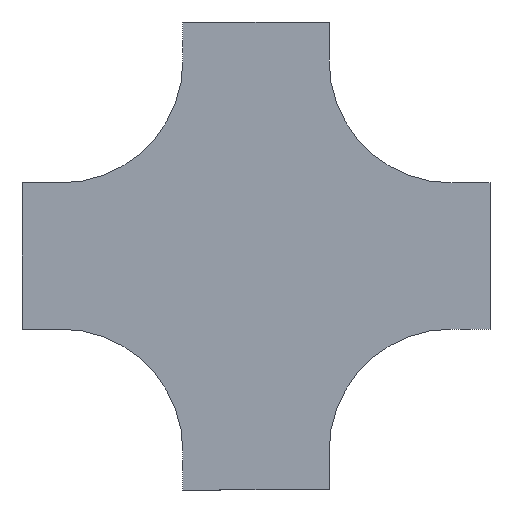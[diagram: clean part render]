
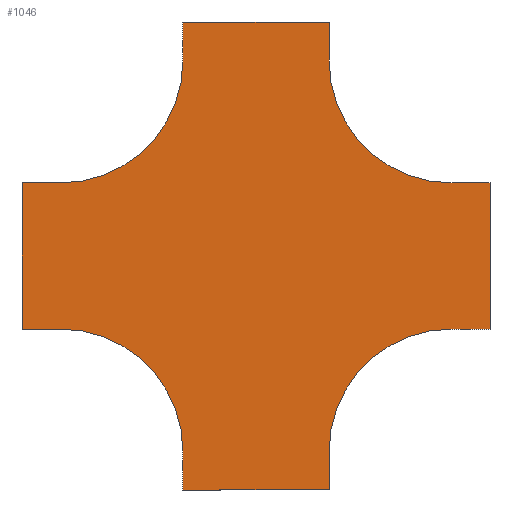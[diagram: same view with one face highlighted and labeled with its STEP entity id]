
A CAD part, front view. The second image highlights one B-rep face of the part: STEP entity #1046.
In plain terms, the highlighted planar face has unit normal (0, -1, 0).
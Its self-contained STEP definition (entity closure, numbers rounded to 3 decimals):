
#31 = CARTESIAN_POINT ( 'NONE',  ( 0., 0., 0. ) ) ;
#44 = CARTESIAN_POINT ( 'NONE',  ( 0., 0., -275. ) ) ;
#48 = EDGE_CURVE ( 'NONE', #2824, #3130, #220, .T. ) ;
#50 = CARTESIAN_POINT ( 'NONE',  ( -275., 0., 0. ) ) ;
#112 = CARTESIAN_POINT ( 'NONE',  ( -400., 0., -125. ) ) ;
#129 = ORIENTED_EDGE ( 'NONE', *, *, #48, .F. ) ;
#182 = EDGE_CURVE ( 'NONE', #3277, #3216, #1077, .T. ) ;
#188 = DIRECTION ( 'NONE',  ( 1., 0., 0. ) ) ;
#210 = DIRECTION ( 'NONE',  ( 0., 0., -1. ) ) ;
#215 = CIRCLE ( 'NONE', #2350, 125. ) ;
#220 = LINE ( 'NONE', #3004, #708 ) ;
#237 = EDGE_CURVE ( 'NONE', #1067, #1214, #1092, .T. ) ;
#253 = LINE ( 'NONE', #517, #910 ) ;
#267 = DIRECTION ( 'NONE',  ( 0., 0., -1. ) ) ;
#307 = EDGE_CURVE ( 'NONE', #995, #2249, #1920, .T. ) ;
#351 = EDGE_CURVE ( 'NONE', #2526, #2452, #2430, .T. ) ;
#364 = CARTESIAN_POINT ( 'NONE',  ( 40., 0., -125. ) ) ;
#383 = ORIENTED_EDGE ( 'NONE', *, *, #2798, .F. ) ;
#403 = CARTESIAN_POINT ( 'NONE',  ( 40., 0., -275. ) ) ;
#439 = LINE ( 'NONE', #1466, #3153 ) ;
#460 = DIRECTION ( 'NONE',  ( 0., -1., 0. ) ) ;
#493 = ORIENTED_EDGE ( 'NONE', *, *, #597, .F. ) ;
#517 = CARTESIAN_POINT ( 'NONE',  ( 40., 0., -125. ) ) ;
#539 = DIRECTION ( 'NONE',  ( -1., 0., 0. ) ) ;
#543 = AXIS2_PLACEMENT_3D ( 'NONE', #957, #3023, #741 ) ;
#555 = EDGE_CURVE ( 'NONE', #817, #2526, #253, .T. ) ;
#572 = ORIENTED_EDGE ( 'NONE', *, *, #889, .F. ) ;
#597 = EDGE_CURVE ( 'NONE', #2076, #2824, #1589, .T. ) ;
#600 = VECTOR ( 'NONE', #539, 1000. ) ;
#657 = CARTESIAN_POINT ( 'NONE',  ( -400., 0., -275. ) ) ;
#700 = PLANE ( 'NONE',  #1282 ) ;
#702 = DIRECTION ( 'NONE',  ( 1., 0., 0. ) ) ;
#708 = VECTOR ( 'NONE', #1512, 1000. ) ;
#741 = DIRECTION ( 'NONE',  ( 0., 0., 1. ) ) ;
#790 = LINE ( 'NONE', #3090, #600 ) ;
#809 = CARTESIAN_POINT ( 'NONE',  ( -125., 0., 0. ) ) ;
#814 = DIRECTION ( 'NONE',  ( 0., 0., -1. ) ) ;
#817 = VERTEX_POINT ( 'NONE', #364 ) ;
#871 = ORIENTED_EDGE ( 'NONE', *, *, #2450, .F. ) ;
#889 = EDGE_CURVE ( 'NONE', #1648, #817, #936, .T. ) ;
#910 = VECTOR ( 'NONE', #267, 1000. ) ;
#936 = LINE ( 'NONE', #3282, #1970 ) ;
#939 = DIRECTION ( 'NONE',  ( -1., 0., 0. ) ) ;
#957 = CARTESIAN_POINT ( 'NONE',  ( -400., 0., 0. ) ) ;
#995 = VERTEX_POINT ( 'NONE', #3245 ) ;
#1021 = VECTOR ( 'NONE', #1800, 1000. ) ;
#1046 = ADVANCED_FACE ( 'NONE', ( #1522 ), #700, .T. ) ;
#1067 = VERTEX_POINT ( 'NONE', #2844 ) ;
#1077 = LINE ( 'NONE', #1590, #1122 ) ;
#1092 = LINE ( 'NONE', #1327, #2138 ) ;
#1122 = VECTOR ( 'NONE', #1313, 1000. ) ;
#1130 = CARTESIAN_POINT ( 'NONE',  ( -275., 0., -400. ) ) ;
#1195 = EDGE_CURVE ( 'NONE', #3130, #2880, #2643, .T. ) ;
#1205 = CARTESIAN_POINT ( 'NONE',  ( 0., 0., 0. ) ) ;
#1214 = VERTEX_POINT ( 'NONE', #1130 ) ;
#1227 = DIRECTION ( 'NONE',  ( 0., -1., 0. ) ) ;
#1282 = AXIS2_PLACEMENT_3D ( 'NONE', #1205, #460, #210 ) ;
#1301 = CARTESIAN_POINT ( 'NONE',  ( 0., 0., -400. ) ) ;
#1313 = DIRECTION ( 'NONE',  ( 0., 0., -1. ) ) ;
#1318 = DIRECTION ( 'NONE',  ( 0., -1., 0. ) ) ;
#1327 = CARTESIAN_POINT ( 'NONE',  ( -275., 0., -440. ) ) ;
#1410 = DIRECTION ( 'NONE',  ( -1., 0., 0. ) ) ;
#1435 = EDGE_CURVE ( 'NONE', #1214, #995, #1552, .T. ) ;
#1466 = CARTESIAN_POINT ( 'NONE',  ( -400., 0., -125. ) ) ;
#1497 = ORIENTED_EDGE ( 'NONE', *, *, #351, .F. ) ;
#1506 = AXIS2_PLACEMENT_3D ( 'NONE', #31, #1318, #814 ) ;
#1508 = CARTESIAN_POINT ( 'NONE',  ( -125., 0., -400. ) ) ;
#1512 = DIRECTION ( 'NONE',  ( 1., 0., 0. ) ) ;
#1522 = FACE_OUTER_BOUND ( 'NONE', #2163, .T. ) ;
#1523 = EDGE_CURVE ( 'NONE', #2452, #3277, #215, .T. ) ;
#1532 = DIRECTION ( 'NONE',  ( 0., -1., 0. ) ) ;
#1552 = CIRCLE ( 'NONE', #2822, 125. ) ;
#1562 = CIRCLE ( 'NONE', #543, 125. ) ;
#1565 = DIRECTION ( 'NONE',  ( 0., 0., 1. ) ) ;
#1589 = LINE ( 'NONE', #2375, #1021 ) ;
#1590 = CARTESIAN_POINT ( 'NONE',  ( -125., 0., -440. ) ) ;
#1648 = VERTEX_POINT ( 'NONE', #3131 ) ;
#1667 = ORIENTED_EDGE ( 'NONE', *, *, #555, .F. ) ;
#1703 = VERTEX_POINT ( 'NONE', #1798 ) ;
#1798 = CARTESIAN_POINT ( 'NONE',  ( -440., 0., -125. ) ) ;
#1800 = DIRECTION ( 'NONE',  ( 0., 0., 1. ) ) ;
#1920 = LINE ( 'NONE', #657, #2409 ) ;
#1938 = ORIENTED_EDGE ( 'NONE', *, *, #182, .F. ) ;
#1970 = VECTOR ( 'NONE', #702, 1000. ) ;
#2011 = VERTEX_POINT ( 'NONE', #112 ) ;
#2031 = CARTESIAN_POINT ( 'NONE',  ( -440., 0., -275. ) ) ;
#2076 = VERTEX_POINT ( 'NONE', #50 ) ;
#2116 = ORIENTED_EDGE ( 'NONE', *, *, #1523, .F. ) ;
#2138 = VECTOR ( 'NONE', #2379, 1000. ) ;
#2162 = DIRECTION ( 'NONE',  ( 0., 0., -1. ) ) ;
#2163 = EDGE_LOOP ( 'NONE', ( #129, #493, #2812, #3194, #383, #3035, #2488, #2697, #3242, #1938, #2116, #1497, #1667, #572, #871, #2832 ) ) ;
#2240 = CARTESIAN_POINT ( 'NONE',  ( -275., 0., 40. ) ) ;
#2249 = VERTEX_POINT ( 'NONE', #2031 ) ;
#2350 = AXIS2_PLACEMENT_3D ( 'NONE', #1301, #1532, #1565 ) ;
#2375 = CARTESIAN_POINT ( 'NONE',  ( -275., 0., 40. ) ) ;
#2379 = DIRECTION ( 'NONE',  ( 0., 0., 1. ) ) ;
#2409 = VECTOR ( 'NONE', #939, 1000. ) ;
#2430 = LINE ( 'NONE', #2673, #3039 ) ;
#2450 = EDGE_CURVE ( 'NONE', #2880, #1648, #2935, .T. ) ;
#2452 = VERTEX_POINT ( 'NONE', #44 ) ;
#2488 = ORIENTED_EDGE ( 'NONE', *, *, #1435, .F. ) ;
#2506 = CARTESIAN_POINT ( 'NONE',  ( -125., 0., -440. ) ) ;
#2526 = VERTEX_POINT ( 'NONE', #403 ) ;
#2611 = EDGE_CURVE ( 'NONE', #1703, #2011, #439, .T. ) ;
#2623 = VECTOR ( 'NONE', #2758, 1000. ) ;
#2643 = LINE ( 'NONE', #3160, #3199 ) ;
#2673 = CARTESIAN_POINT ( 'NONE',  ( 0., 0., -275. ) ) ;
#2697 = ORIENTED_EDGE ( 'NONE', *, *, #237, .F. ) ;
#2727 = LINE ( 'NONE', #2742, #2623 ) ;
#2742 = CARTESIAN_POINT ( 'NONE',  ( -440., 0., -125. ) ) ;
#2743 = CARTESIAN_POINT ( 'NONE',  ( -400., 0., -400. ) ) ;
#2758 = DIRECTION ( 'NONE',  ( 0., 0., 1. ) ) ;
#2798 = EDGE_CURVE ( 'NONE', #2249, #1703, #2727, .T. ) ;
#2812 = ORIENTED_EDGE ( 'NONE', *, *, #2850, .F. ) ;
#2822 = AXIS2_PLACEMENT_3D ( 'NONE', #2743, #1227, #3260 ) ;
#2824 = VERTEX_POINT ( 'NONE', #2240 ) ;
#2832 = ORIENTED_EDGE ( 'NONE', *, *, #1195, .F. ) ;
#2844 = CARTESIAN_POINT ( 'NONE',  ( -275., 0., -440. ) ) ;
#2850 = EDGE_CURVE ( 'NONE', #2011, #2076, #1562, .T. ) ;
#2880 = VERTEX_POINT ( 'NONE', #809 ) ;
#2914 = EDGE_CURVE ( 'NONE', #3216, #1067, #790, .T. ) ;
#2918 = CARTESIAN_POINT ( 'NONE',  ( -125., 0., 40. ) ) ;
#2935 = CIRCLE ( 'NONE', #1506, 125. ) ;
#3004 = CARTESIAN_POINT ( 'NONE',  ( -275., 0., 40. ) ) ;
#3023 = DIRECTION ( 'NONE',  ( 0., -1., 0. ) ) ;
#3035 = ORIENTED_EDGE ( 'NONE', *, *, #307, .F. ) ;
#3039 = VECTOR ( 'NONE', #1410, 1000. ) ;
#3090 = CARTESIAN_POINT ( 'NONE',  ( -275., 0., -440. ) ) ;
#3130 = VERTEX_POINT ( 'NONE', #2918 ) ;
#3131 = CARTESIAN_POINT ( 'NONE',  ( 0., 0., -125. ) ) ;
#3153 = VECTOR ( 'NONE', #188, 1000. ) ;
#3160 = CARTESIAN_POINT ( 'NONE',  ( -125., 0., 40. ) ) ;
#3194 = ORIENTED_EDGE ( 'NONE', *, *, #2611, .F. ) ;
#3199 = VECTOR ( 'NONE', #2162, 1000. ) ;
#3216 = VERTEX_POINT ( 'NONE', #2506 ) ;
#3242 = ORIENTED_EDGE ( 'NONE', *, *, #2914, .F. ) ;
#3245 = CARTESIAN_POINT ( 'NONE',  ( -400., 0., -275. ) ) ;
#3260 = DIRECTION ( 'NONE',  ( 0., 0., -1. ) ) ;
#3277 = VERTEX_POINT ( 'NONE', #1508 ) ;
#3282 = CARTESIAN_POINT ( 'NONE',  ( 0., 0., -125. ) ) ;
